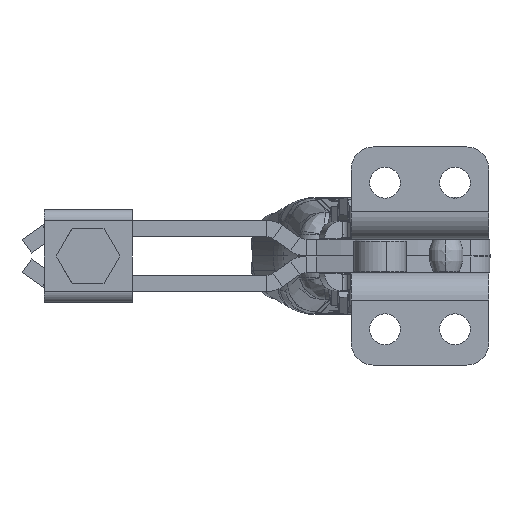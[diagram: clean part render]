
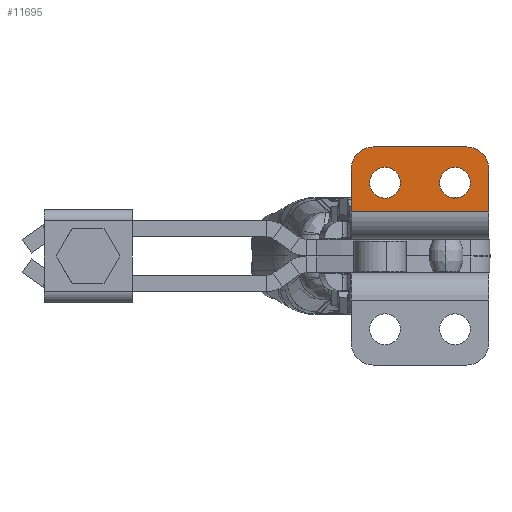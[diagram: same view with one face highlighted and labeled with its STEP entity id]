
A CAD part, front view. The second image highlights one B-rep face of the part: STEP entity #11695.
In plain terms, the highlighted planar face has unit normal (0, -1, 0).
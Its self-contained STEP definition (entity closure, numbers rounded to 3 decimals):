
#132 = DIRECTION ( 'NONE',  ( 0., 1., 0. ) ) ;
#311 = LINE ( 'NONE', #18231, #7122 ) ;
#578 = CIRCLE ( 'NONE', #19550, 4. ) ;
#747 = CIRCLE ( 'NONE', #7957, 2.8 ) ;
#862 = DIRECTION ( 'NONE',  ( 1., 0., 0. ) ) ;
#980 = CARTESIAN_POINT ( 'NONE',  ( -12.5, 12.3, 9.802 ) ) ;
#1058 = CIRCLE ( 'NONE', #30888, 2.8 ) ;
#1470 = FACE_BOUND ( 'NONE', #9333, .T. ) ;
#1682 = EDGE_CURVE ( 'NONE', #22684, #2612, #12039, .T. ) ;
#2088 = DIRECTION ( 'NONE',  ( 0., 0., 1. ) ) ;
#2274 = VERTEX_POINT ( 'NONE', #22585 ) ;
#2612 = VERTEX_POINT ( 'NONE', #4429 ) ;
#2911 = EDGE_LOOP ( 'NONE', ( #7589, #20724, #11256, #26308, #6820, #32472 ) ) ;
#3092 = EDGE_CURVE ( 'NONE', #3620, #7769, #578, .T. ) ;
#3221 = EDGE_CURVE ( 'NONE', #2612, #11404, #12396, .T. ) ;
#3620 = VERTEX_POINT ( 'NONE', #980 ) ;
#3692 = CARTESIAN_POINT ( 'NONE',  ( 9.15, 12.3, 7.302 ) ) ;
#3775 = AXIS2_PLACEMENT_3D ( 'NONE', #18556, #27309, #9974 ) ;
#4004 = DIRECTION ( 'NONE',  ( 0., 1., 0. ) ) ;
#4429 = CARTESIAN_POINT ( 'NONE',  ( 12.5, 12.3, 2. ) ) ;
#4945 = CARTESIAN_POINT ( 'NONE',  ( -12.5, 12.3, 2. ) ) ;
#5733 = AXIS2_PLACEMENT_3D ( 'NONE', #15891, #36258, #18809 ) ;
#6352 = VECTOR ( 'NONE', #2088, 1000. ) ;
#6674 = CARTESIAN_POINT ( 'NONE',  ( 12.5, 12.3, -27.218 ) ) ;
#6820 = ORIENTED_EDGE ( 'NONE', *, *, #3092, .F. ) ;
#7122 = VECTOR ( 'NONE', #862, 1000. ) ;
#7157 = CARTESIAN_POINT ( 'NONE',  ( 6.35, 12.3, 7.302 ) ) ;
#7589 = ORIENTED_EDGE ( 'NONE', *, *, #3221, .F. ) ;
#7769 = VERTEX_POINT ( 'NONE', #12610 ) ;
#7957 = AXIS2_PLACEMENT_3D ( 'NONE', #29320, #11982, #32229 ) ;
#8869 = AXIS2_PLACEMENT_3D ( 'NONE', #17508, #132, #20421 ) ;
#9333 = EDGE_LOOP ( 'NONE', ( #20176, #32661 ) ) ;
#9706 = VERTEX_POINT ( 'NONE', #27376 ) ;
#9974 = DIRECTION ( 'NONE',  ( 1., 0., 0. ) ) ;
#10066 = DIRECTION ( 'NONE',  ( 1., 0., 0. ) ) ;
#10188 = EDGE_CURVE ( 'NONE', #17774, #2274, #10191, .T. ) ;
#10191 = CIRCLE ( 'NONE', #8869, 2.8 ) ;
#10640 = CARTESIAN_POINT ( 'NONE',  ( 8.5, 12.3, 13.802 ) ) ;
#11101 = VECTOR ( 'NONE', #29968, 1000. ) ;
#11256 = ORIENTED_EDGE ( 'NONE', *, *, #11729, .F. ) ;
#11404 = VERTEX_POINT ( 'NONE', #4945 ) ;
#11695 = ADVANCED_FACE ( 'NONE', ( #16927, #1470, #31423 ), #32939, .F. ) ;
#11729 = EDGE_CURVE ( 'NONE', #20035, #22684, #15986, .T. ) ;
#11982 = DIRECTION ( 'NONE',  ( 0., 1., 0. ) ) ;
#12039 = LINE ( 'NONE', #6674, #11101 ) ;
#12396 = LINE ( 'NONE', #14887, #35556 ) ;
#12610 = CARTESIAN_POINT ( 'NONE',  ( -8.5, 12.3, 13.802 ) ) ;
#12977 = VERTEX_POINT ( 'NONE', #3692 ) ;
#14258 = DIRECTION ( 'NONE',  ( 0., 1., 0. ) ) ;
#14887 = CARTESIAN_POINT ( 'NONE',  ( 7.72, 12.3, 2. ) ) ;
#15891 = CARTESIAN_POINT ( 'NONE',  ( 8.5, 12.3, 9.802 ) ) ;
#15986 = CIRCLE ( 'NONE', #5733, 4. ) ;
#16927 = FACE_OUTER_BOUND ( 'NONE', #2911, .T. ) ;
#17508 = CARTESIAN_POINT ( 'NONE',  ( -6.35, 12.3, 7.302 ) ) ;
#17774 = VERTEX_POINT ( 'NONE', #25159 ) ;
#18231 = CARTESIAN_POINT ( 'NONE',  ( 7.72, 12.3, 13.802 ) ) ;
#18556 = CARTESIAN_POINT ( 'NONE',  ( 7.72, 12.3, -27.218 ) ) ;
#18809 = DIRECTION ( 'NONE',  ( 1., 0., 0. ) ) ;
#19550 = AXIS2_PLACEMENT_3D ( 'NONE', #31642, #14258, #34586 ) ;
#20035 = VERTEX_POINT ( 'NONE', #10640 ) ;
#20176 = ORIENTED_EDGE ( 'NONE', *, *, #10188, .T. ) ;
#20421 = DIRECTION ( 'NONE',  ( 1., 0., 0. ) ) ;
#20724 = ORIENTED_EDGE ( 'NONE', *, *, #1682, .F. ) ;
#21381 = CARTESIAN_POINT ( 'NONE',  ( 6.35, 12.3, 7.302 ) ) ;
#21573 = EDGE_CURVE ( 'NONE', #9706, #12977, #1058, .T. ) ;
#22585 = CARTESIAN_POINT ( 'NONE',  ( -9.15, 12.3, 7.302 ) ) ;
#22684 = VERTEX_POINT ( 'NONE', #33725 ) ;
#22694 = LINE ( 'NONE', #36903, #6352 ) ;
#23352 = EDGE_CURVE ( 'NONE', #12977, #9706, #34119, .T. ) ;
#24302 = DIRECTION ( 'NONE',  ( 1., 0., 0. ) ) ;
#25141 = EDGE_CURVE ( 'NONE', #11404, #3620, #22694, .T. ) ;
#25159 = CARTESIAN_POINT ( 'NONE',  ( -3.55, 12.3, 7.302 ) ) ;
#26308 = ORIENTED_EDGE ( 'NONE', *, *, #27989, .F. ) ;
#26565 = AXIS2_PLACEMENT_3D ( 'NONE', #7157, #27418, #10066 ) ;
#27309 = DIRECTION ( 'NONE',  ( 0., 1., 0. ) ) ;
#27376 = CARTESIAN_POINT ( 'NONE',  ( 3.55, 12.3, 7.302 ) ) ;
#27418 = DIRECTION ( 'NONE',  ( 0., 1., 0. ) ) ;
#27989 = EDGE_CURVE ( 'NONE', #7769, #20035, #311, .T. ) ;
#28121 = EDGE_LOOP ( 'NONE', ( #35579, #30030 ) ) ;
#28429 = EDGE_CURVE ( 'NONE', #2274, #17774, #747, .T. ) ;
#29320 = CARTESIAN_POINT ( 'NONE',  ( -6.35, 12.3, 7.302 ) ) ;
#29968 = DIRECTION ( 'NONE',  ( 0., 0., -1. ) ) ;
#30030 = ORIENTED_EDGE ( 'NONE', *, *, #21573, .T. ) ;
#30888 = AXIS2_PLACEMENT_3D ( 'NONE', #21381, #4004, #24302 ) ;
#31423 = FACE_BOUND ( 'NONE', #28121, .T. ) ;
#31642 = CARTESIAN_POINT ( 'NONE',  ( -8.5, 12.3, 9.802 ) ) ;
#32229 = DIRECTION ( 'NONE',  ( 1., 0., 0. ) ) ;
#32472 = ORIENTED_EDGE ( 'NONE', *, *, #25141, .F. ) ;
#32661 = ORIENTED_EDGE ( 'NONE', *, *, #28429, .T. ) ;
#32939 = PLANE ( 'NONE',  #3775 ) ;
#33725 = CARTESIAN_POINT ( 'NONE',  ( 12.5, 12.3, 9.802 ) ) ;
#34119 = CIRCLE ( 'NONE', #26565, 2.8 ) ;
#34586 = DIRECTION ( 'NONE',  ( 1., 0., 0. ) ) ;
#35111 = DIRECTION ( 'NONE',  ( -1., 0., 0. ) ) ;
#35556 = VECTOR ( 'NONE', #35111, 1000. ) ;
#35579 = ORIENTED_EDGE ( 'NONE', *, *, #23352, .T. ) ;
#36258 = DIRECTION ( 'NONE',  ( 0., 1., 0. ) ) ;
#36903 = CARTESIAN_POINT ( 'NONE',  ( -12.5, 12.3, -27.218 ) ) ;
